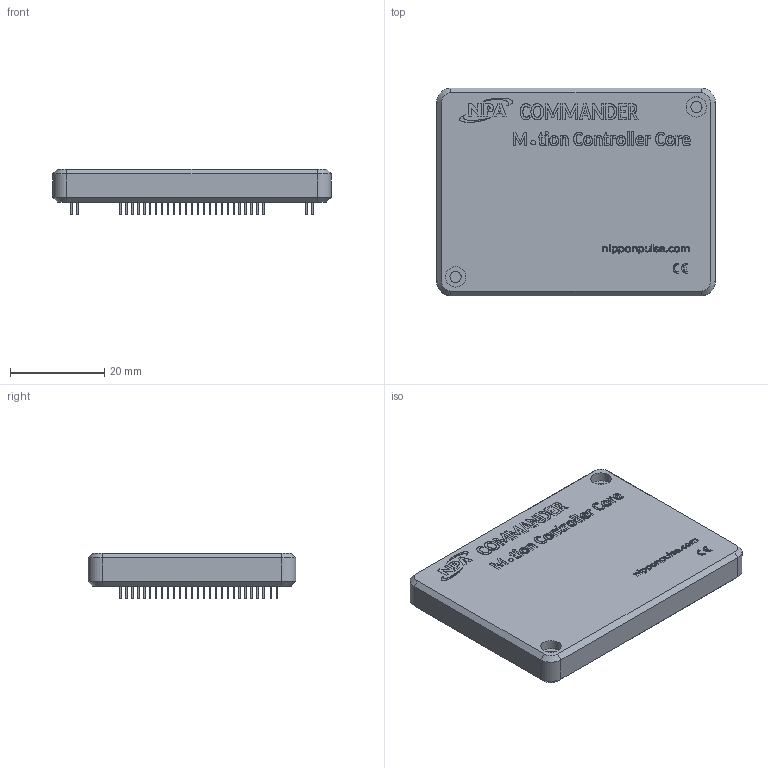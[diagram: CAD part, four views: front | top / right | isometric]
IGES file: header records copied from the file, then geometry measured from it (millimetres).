
Global section: file name: Filename.iges; native system: Open CASCADE 8.0; preprocessor: Open CASCADE IGES processor 8.0; author: root; date: 20261016.164319; units: millimetre
Bounding box: 59 x 44 x 9.7 mm (x, y, z)
Surface area: 19114.7 mm2 (no closed solid volume)
Topology: 0 solids, 0 shells, 2164 faces, 9392 edges, 9330 vertices
Faces by surface type: plane 1959, extrusion 135, revolution 70
